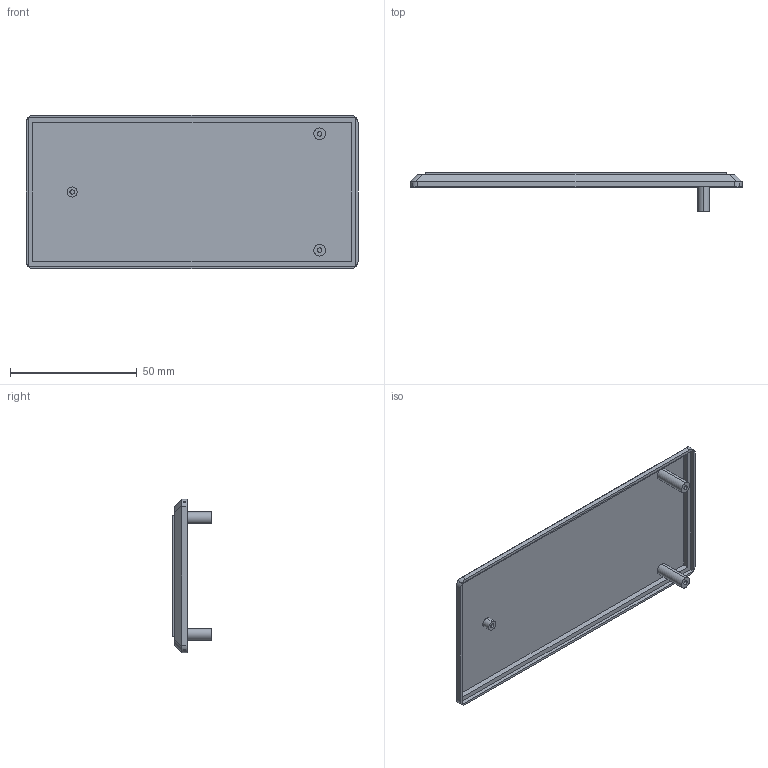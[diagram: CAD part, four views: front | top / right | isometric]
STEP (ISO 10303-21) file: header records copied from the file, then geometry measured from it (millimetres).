
FILE_DESCRIPTION (( 'STEP AP214' ), '1' );
FILE_NAME ('Tapa PP5.STEP', '2016-12-28T20:58:43', ( 'aaa' ), ( '' ), 'SwSTEP 2.0', 'SolidWorks 2013', '' );
FILE_SCHEMA (( 'AUTOMOTIVE_DESIGN' ));
Length unit declared in the file: millimetre
Products named in the file (1): Tapa PP5
Bounding box: 131 x 15.66 x 60.5 mm (x, y, z)
Volume: 16745.1 mm3; surface area: 19509 mm2
Topology: 1 solids, 1 shells, 60 faces, 144 edges, 96 vertices
Faces by surface type: plane 36, cylinder 24
Entity records: 1778 total; most frequent: CARTESIAN_POINT 349, ORIENTED_EDGE 288, DIRECTION 286, EDGE_CURVE 144, AXIS2_PLACEMENT_3D 97, VERTEX_POINT 96, VECTOR 92, LINE 92
